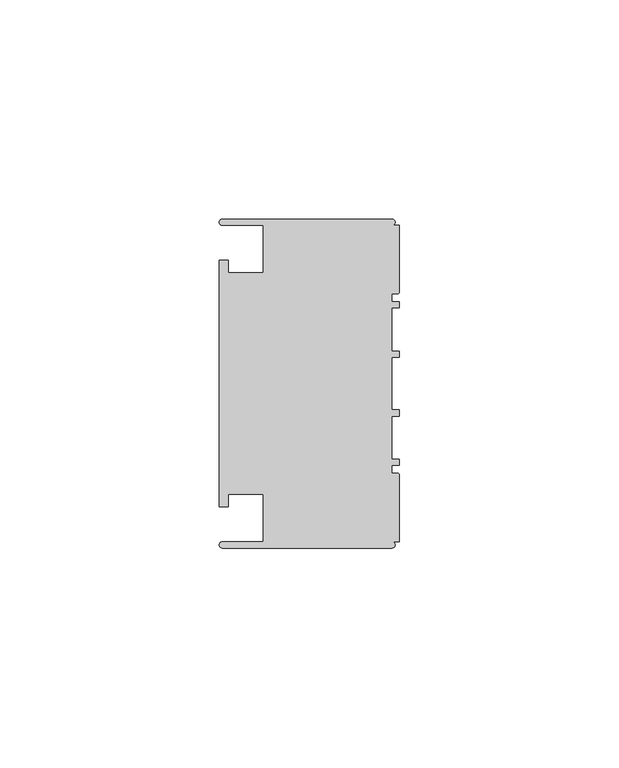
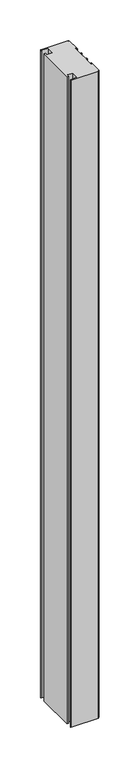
"""IFC4 building model written with IfcOpenShell, lengths in millimetres: member geometry, Прямоугольный импост : 3-AMG-2-Профиль 40Х75 Верх П."""

from ifc_helpers import new_model, si_unit, point, frame, frame_2d, origin, place, context, project, spatial, polyline, circle_curve, trimmed, segment, composite_curve, outline, extrude, source, transform, mapped, element, save


def member_9c1a6d5d(model_context):
    return source(origin(), model_context, "Body", "SweptSolid", [
        extrude(outline(composite_curve([segment(polyline([(-1.7, -37.5), (-40.4, -37.5)]), True, "CONTINUOUS"), segment(trimmed(circle_curve(frame_2d((-40.4, -36.8)), 0.7), [point((-40.4, -37.5))], [point((-40.4, -36.1))], False, "CARTESIAN"), True, "CONTINUOUS"), segment(polyline([(-40.4, -36.1), (-31.0, -36.1), (-31.0, -25.25), (-39.0, -25.25), (-39.0, -28.1), (-41.1, -28.1), (-41.1, 28.1), (-39.0, 28.1), (-39.0, 25.25), (-31.0, 25.25), (-31.0, 36.1), (-40.4, 36.1)]), True, "CONTINUOUS"), segment(trimmed(circle_curve(frame_2d((-40.4, 36.8)), 0.7), [point((-40.4, 36.1))], [point((-40.4, 37.5))], False, "CARTESIAN"), True, "CONTINUOUS"), segment(polyline([(-40.4, 37.5), (-1.7, 37.5)]), True, "CONTINUOUS"), segment(trimmed(circle_curve(frame_2d((-1.7, 36.8)), 0.7), [point((-1.7, 37.5))], [point((-1.7, 36.1))], False, "CARTESIAN"), True, "CONTINUOUS"), segment(polyline([(-1.7, 36.1), (0.0, 36.1), (0.0, 20.95)]), True, "CONTINUOUS"), segment(trimmed(circle_curve(frame_2d((-0.5, 20.95)), 0.5), [point((0.0, 20.95))], [point((-0.5, 20.45))], False, "CARTESIAN"), True, "CONTINUOUS"), segment(polyline([(-0.5, 20.45), (-1.8, 20.45), (-1.8, 18.65), (0.0, 18.65), (0.0, 17.25), (-1.8, 17.25), (-1.8, 7.4), (0.0, 7.4), (0.0, 6.0), (-1.8, 6.0), (-1.8, -6.0), (0.0, -6.0), (0.0, -7.4), (-1.8, -7.4), (-1.8, -17.25), (0.0, -17.25), (0.0, -18.65), (-1.8, -18.65), (-1.8, -20.45), (-0.5, -20.45)]), True, "CONTINUOUS"), segment(trimmed(circle_curve(frame_2d((-0.5, -20.95)), 0.5), [point((-0.5, -20.45))], [point((0.0, -20.95))], False, "CARTESIAN"), True, "CONTINUOUS"), segment(polyline([(0.0, -20.95), (0.0, -36.1), (-1.7, -36.1)]), True, "CONTINUOUS"), segment(trimmed(circle_curve(frame_2d((-1.7, -36.8)), 0.7), [point((-1.7, -36.1))], [point((-1.7, -37.5))], False, "CARTESIAN"), True, "CONTINUOUS")], self_intersect=False)), frame((0.0, 0.0, -974.5011211), z_axis=(0.0, 0.0, 1.0), x_axis=(1.0, 0.0, 0.0)), (0.0, 0.0, 1.0), 974.5011211),
    ])


if __name__ == "__main__":
    model = new_model("IFC4")
    model_context = context("Model", 3, world=origin())
    ifc_project = project(units=[si_unit("LENGTHUNIT", "METRE", prefix="MILLI")], contexts=[model_context])
    site = spatial("IfcSite", under=ifc_project)
    building = spatial("IfcBuilding", under=site)
    placement = place(None, origin())
    member_shape = member_9c1a6d5d(model_context)
    element("IfcMember", 1, ObjectType="Прямоугольный импост : 3-AMG-2-Профиль 40Х75 Верх П", at=placement, inside=building, context=model_context, shape_type="MappedRepresentation", body=[
        mapped(member_shape, transform((0.0, 0.0, 0.0), x_axis=(1.0, 0.0, 0.0), y_axis=(0.0, 1.0, 0.0), z_axis=(0.0, 0.0, 1.0))),
    ])
    save(model, "model.ifc")
